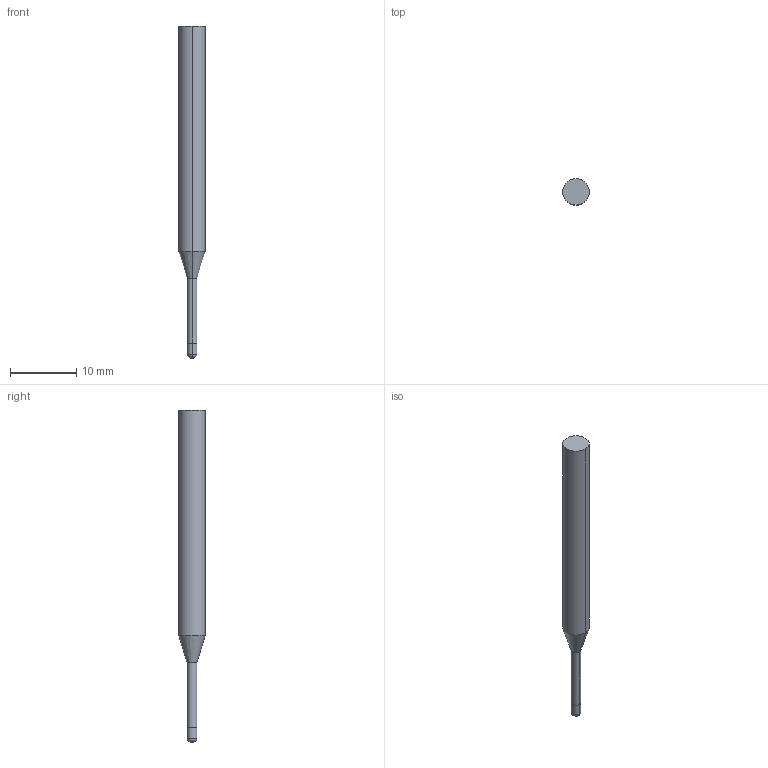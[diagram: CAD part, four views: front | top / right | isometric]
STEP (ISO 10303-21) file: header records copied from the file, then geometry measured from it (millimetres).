
FILE_DESCRIPTION((' '),'2;1');
FILE_NAME( '3MVSM0150R.50N8AH.stp', '2026-01-21T19:27:35', (' '), ('--- Datakit www.datakit.com---'), ' Datakit CrossCadWare V2025.4 Sep 19 2025', 'Mastercam 2027', ' ');
FILE_SCHEMA(('AUTOMOTIVE_DESIGN { 1 0 10303 214 1 1 1 1 }'));
Length unit declared in the file: inch
Products named in the file (1): 3MVSM0150R
Bounding box: 4 x 4 x 50 mm (x, y, z)
Volume: 473.3 mm3; surface area: 532.9 mm2
Topology: 1 solids, 1 shells, 12 faces, 22 edges, 12 vertices
Faces by surface type: cylinder 6, plane 2, torus 2, cone 2
Entity records: 377 total; most frequent: DIRECTION 70, CARTESIAN_POINT 51, ORIENTED_EDGE 44, AXIS2_PLACEMENT_3D 31, EDGE_CURVE 22, CIRCLE 14, VERTEX_POINT 12, EDGE_LOOP 12
